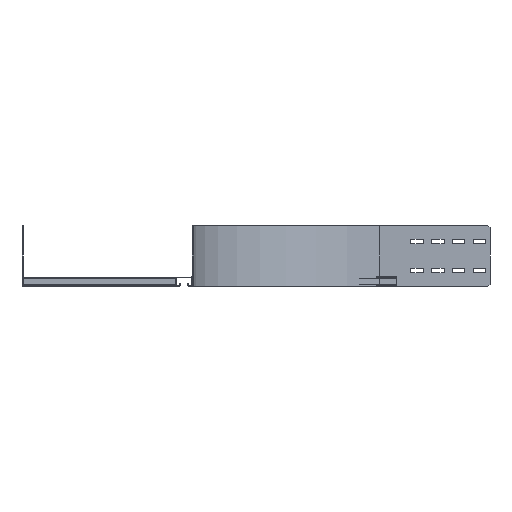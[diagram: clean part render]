
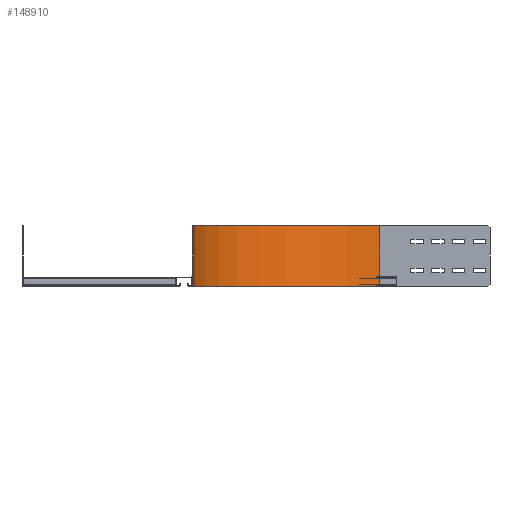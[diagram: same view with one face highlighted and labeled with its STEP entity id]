
A CAD part, left-side view. The second image highlights one B-rep face of the part: STEP entity #148910.
In plain terms, the highlighted cylindrical face has radius 447 mm (diameter 894 mm), a partial arc.
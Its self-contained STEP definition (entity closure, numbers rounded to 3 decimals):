
#126570=CARTESIAN_POINT('',(0.,-450.,0.));
#126580=DIRECTION('',(0.,0.,-1.));
#126590=DIRECTION('',(-1.,0.,0.));
#126600=AXIS2_PLACEMENT_3D('',#126570,#126580,#126590);
#126610=CIRCLE('',#126600,447.);
#126620=CARTESIAN_POINT('',(0.,-3.,0.));
#126630=VERTEX_POINT('',#126620);
#126640=CARTESIAN_POINT('',(447.,-450.,0.));
#126650=VERTEX_POINT('',#126640);
#126660=EDGE_CURVE('',#126630,#126650,#126610,.T.);
#130720=CARTESIAN_POINT('',(0.,-3.,-145.));
#130730=VERTEX_POINT('',#130720);
#130760=CARTESIAN_POINT('',(0.,-450.,-145.));
#130770=DIRECTION('',(0.,0.,-1.));
#130780=DIRECTION('',(-1.,0.,0.));
#130790=AXIS2_PLACEMENT_3D('',#130760,#130770,#130780);
#130800=CIRCLE('',#130790,447.);
#130810=CARTESIAN_POINT('',(447.,-450.,-145.));
#130820=VERTEX_POINT('',#130810);
#130830=EDGE_CURVE('',#130730,#130820,#130800,.T.);
#134490=CARTESIAN_POINT('',(447.,-450.,0.));
#134500=DIRECTION('',(0.,0.,-1.));
#134510=VECTOR('',#134500,1.);
#134520=LINE('',#134490,#134510);
#134530=EDGE_CURVE('',#126650,#130820,#134520,.T.);
#140290=CARTESIAN_POINT('',(0.,-3.,0.));
#140300=DIRECTION('',(0.,0.,-1.));
#140310=VECTOR('',#140300,1.);
#140320=LINE('',#140290,#140310);
#140330=EDGE_CURVE('',#126630,#130730,#140320,.T.);
#148800=CARTESIAN_POINT('',(0.,-450.,0.));
#148810=DIRECTION('',(0.,0.,-1.));
#148820=DIRECTION('',(-1.,0.,0.));
#148830=AXIS2_PLACEMENT_3D('',#148800,#148810,#148820);
#148840=CYLINDRICAL_SURFACE('',#148830,447.);
#148850=ORIENTED_EDGE('',*,*,#126660,.F.);
#148860=ORIENTED_EDGE('',*,*,#134530,.F.);
#148870=ORIENTED_EDGE('',*,*,#130830,.T.);
#148880=ORIENTED_EDGE('',*,*,#140330,.T.);
#148890=EDGE_LOOP('',(#148880,#148870,#148860,#148850));
#148900=FACE_OUTER_BOUND('',#148890,.T.);
#148910=ADVANCED_FACE('',(#148900),#148840,.F.);
